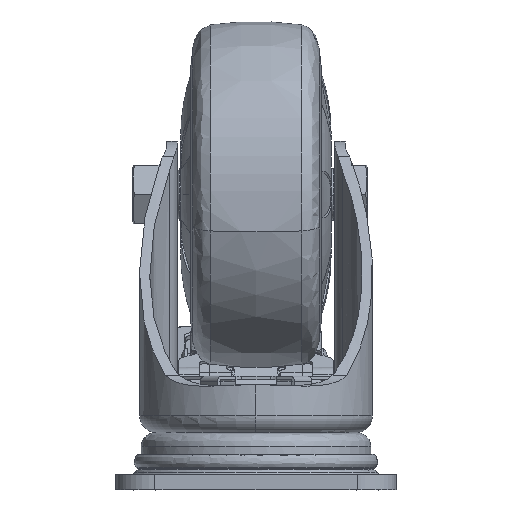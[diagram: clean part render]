
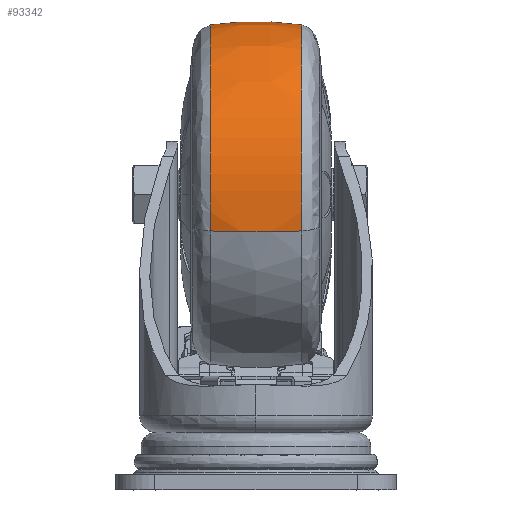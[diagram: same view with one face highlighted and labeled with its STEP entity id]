
A CAD part, left-side view. The second image highlights one B-rep face of the part: STEP entity #93342.
In plain terms, the highlighted free-form (B-spline) face has degree [3, 3] with [4, 4] control points.
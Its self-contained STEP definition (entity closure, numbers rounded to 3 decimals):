
#1324 = CARTESIAN_POINT ( 'NONE',  ( 37., -124.119, 13.279 ) ) ;
#1792 = CARTESIAN_POINT ( 'NONE',  ( 37., -24.881, 13.279 ) ) ;
#2812 = CARTESIAN_POINT ( 'NONE',  ( -62.239, -24.881, 13.279 ) ) ;
#6200 =( BOUNDED_CURVE ( )  B_SPLINE_CURVE ( 3, ( #76204, #77231, #101148, #93875 ),
 .UNSPECIFIED., .F., .F. ) 
 B_SPLINE_CURVE_WITH_KNOTS ( ( 4, 4 ),
 ( 0., 1. ),
 .UNSPECIFIED. ) 
 CURVE ( )  GEOMETRIC_REPRESENTATION_ITEM ( )  RATIONAL_B_SPLINE_CURVE ( ( 1., 0.994, 0.994, 1. ) ) 
 REPRESENTATION_ITEM ( '' )  );
#6682 = ORIENTED_EDGE ( 'NONE', *, *, #33413, .T. ) ;
#7589 = CARTESIAN_POINT ( 'NONE',  ( 37., -125.696, -4.452 ) ) ;
#7653 = VERTEX_POINT ( 'NONE', #29184 ) ;
#10031 = CARTESIAN_POINT ( 'NONE',  ( 37., -124.119, -13.279 ) ) ;
#10200 = EDGE_LOOP ( 'NONE', ( #16975, #62996, #6682, #29028 ) ) ;
#16464 = CARTESIAN_POINT ( 'NONE',  ( -62.239, -24.881, 13.279 ) ) ;
#16975 = ORIENTED_EDGE ( 'NONE', *, *, #26567, .T. ) ;
#17791 = CARTESIAN_POINT ( 'NONE',  ( 37., -24.881, -13.279 ) ) ;
#23761 = CARTESIAN_POINT ( 'NONE',  ( -65.392, -23.304, 4.452 ) ) ;
#26567 = EDGE_CURVE ( 'NONE', #29471, #7653, #95690, .T. ) ;
#29028 = ORIENTED_EDGE ( 'NONE', *, *, #45219, .F. ) ;
#29184 = CARTESIAN_POINT ( 'NONE',  ( 37., -124.119, -13.279 ) ) ;
#29471 = VERTEX_POINT ( 'NONE', #30963 ) ;
#29935 = CARTESIAN_POINT ( 'NONE',  ( 37., -124.119, -13.279 ) ) ;
#30963 = CARTESIAN_POINT ( 'NONE',  ( 37., -124.119, 13.279 ) ) ;
#32699 =( BOUNDED_CURVE ( )  B_SPLINE_CURVE ( 3, ( #41883, #64783, #2812, #1792 ),
 .UNSPECIFIED., .F., .F. ) 
 B_SPLINE_CURVE_WITH_KNOTS ( ( 4, 4 ),
 ( 0., 1. ),
 .UNSPECIFIED. ) 
 CURVE ( )  GEOMETRIC_REPRESENTATION_ITEM ( )  RATIONAL_B_SPLINE_CURVE ( ( 0.508, 0.169, 0.169, 0.508 ) ) 
 REPRESENTATION_ITEM ( '' )  );
#33119 = CARTESIAN_POINT ( 'NONE',  ( 37., -24.881, -13.279 ) ) ;
#33413 = EDGE_CURVE ( 'NONE', #59050, #41622, #6200, .T. ) ;
#34024 = CARTESIAN_POINT ( 'NONE',  ( 37., -124.119, 13.279 ) ) ;
#40408 = CARTESIAN_POINT ( 'NONE',  ( -65.392, -125.696, 4.452 ) ) ;
#41622 = VERTEX_POINT ( 'NONE', #98819 ) ;
#41883 = CARTESIAN_POINT ( 'NONE',  ( 37., -124.119, 13.279 ) ) ;
#45025 = CARTESIAN_POINT ( 'NONE',  ( 37., -24.881, -13.279 ) ) ;
#45219 = EDGE_CURVE ( 'NONE', #29471, #41622, #32699, .T. ) ;
#48209 = CARTESIAN_POINT ( 'NONE',  ( 37., -125.696, 4.452 ) ) ;
#48716 = CARTESIAN_POINT ( 'NONE',  ( -65.392, -23.304, -4.452 ) ) ;
#49232 = CARTESIAN_POINT ( 'NONE',  ( -65.392, -125.696, -4.452 ) ) ;
#54969 = CARTESIAN_POINT ( 'NONE',  ( 37., -23.304, -4.452 ) ) ;
#55483 = CARTESIAN_POINT ( 'NONE',  ( 37., -23.304, 4.452 ) ) ;
#56390 = CARTESIAN_POINT ( 'NONE',  ( 37., -125.696, -4.452 ) ) ;
#57045 = CARTESIAN_POINT ( 'NONE',  ( -62.239, -24.881, -13.279 ) ) ;
#59050 = VERTEX_POINT ( 'NONE', #17791 ) ;
#62996 = ORIENTED_EDGE ( 'NONE', *, *, #75335, .T. ) ;
#63298 = CARTESIAN_POINT ( 'NONE',  ( -62.239, -124.119, 13.279 ) ) ;
#64783 = CARTESIAN_POINT ( 'NONE',  ( -62.239, -124.119, 13.279 ) ) ;
#71054 = CARTESIAN_POINT ( 'NONE',  ( 37., -124.119, -13.279 ) ) ;
#71589 = CARTESIAN_POINT ( 'NONE',  ( 37., -24.881, 13.279 ) ) ;
#75335 = EDGE_CURVE ( 'NONE', #7653, #59050, #89277, .T. ) ;
#76204 = CARTESIAN_POINT ( 'NONE',  ( 37., -24.881, -13.279 ) ) ;
#77231 = CARTESIAN_POINT ( 'NONE',  ( 37., -23.304, -4.452 ) ) ;
#79882 = CARTESIAN_POINT ( 'NONE',  ( -62.239, -124.119, -13.279 ) ) ;
#80021 =( BOUNDED_SURFACE ( )  B_SPLINE_SURFACE ( 3, 3, ( 
 ( #1324, #63298, #16464, #71589 ),
 ( #48209, #40408, #23761, #55483 ),
 ( #7589, #49232, #48716, #54969 ),
 ( #71054, #79882, #57045, #33119 ) ),
 .UNSPECIFIED., .F., .F., .F. ) 
 B_SPLINE_SURFACE_WITH_KNOTS ( ( 4, 4 ),
 ( 4, 4 ),
 ( 0., 1. ),
 ( 0.5, 1. ),
 .UNSPECIFIED. ) 
 GEOMETRIC_REPRESENTATION_ITEM ( )  RATIONAL_B_SPLINE_SURFACE ( (
 ( 1., 0.333, 0.333, 1.),
 ( 0.994, 0.331, 0.331, 0.994),
 ( 0.994, 0.331, 0.331, 0.994),
 ( 1., 0.333, 0.333, 1.) ) ) 
 REPRESENTATION_ITEM ( '' )  SURFACE ( )  );
#87086 = CARTESIAN_POINT ( 'NONE',  ( -62.239, -24.881, -13.279 ) ) ;
#89277 =( BOUNDED_CURVE ( )  B_SPLINE_CURVE ( 3, ( #29935, #93870, #87086, #45025 ),
 .UNSPECIFIED., .F., .F. ) 
 B_SPLINE_CURVE_WITH_KNOTS ( ( 4, 4 ),
 ( 0., 1. ),
 .UNSPECIFIED. ) 
 CURVE ( )  GEOMETRIC_REPRESENTATION_ITEM ( )  RATIONAL_B_SPLINE_CURVE ( ( 1., 0.333, 0.333, 1. ) ) 
 REPRESENTATION_ITEM ( '' )  );
#93342 = ADVANCED_FACE ( 'NONE', ( #95000 ), #80021, .T. ) ;
#93870 = CARTESIAN_POINT ( 'NONE',  ( -62.239, -124.119, -13.279 ) ) ;
#93875 = CARTESIAN_POINT ( 'NONE',  ( 37., -24.881, 13.279 ) ) ;
#95000 = FACE_OUTER_BOUND ( 'NONE', #10200, .T. ) ;
#95690 =( BOUNDED_CURVE ( )  B_SPLINE_CURVE ( 3, ( #34024, #95903, #56390, #10031 ),
 .UNSPECIFIED., .F., .T. ) 
 B_SPLINE_CURVE_WITH_KNOTS ( ( 4, 4 ),
 ( 0., 1. ),
 .UNSPECIFIED. ) 
 CURVE ( )  GEOMETRIC_REPRESENTATION_ITEM ( )  RATIONAL_B_SPLINE_CURVE ( ( 1., 0.994, 0.994, 1. ) ) 
 REPRESENTATION_ITEM ( '' )  );
#95903 = CARTESIAN_POINT ( 'NONE',  ( 37., -125.696, 4.452 ) ) ;
#98819 = CARTESIAN_POINT ( 'NONE',  ( 37., -24.881, 13.279 ) ) ;
#101148 = CARTESIAN_POINT ( 'NONE',  ( 37., -23.304, 4.452 ) ) ;
